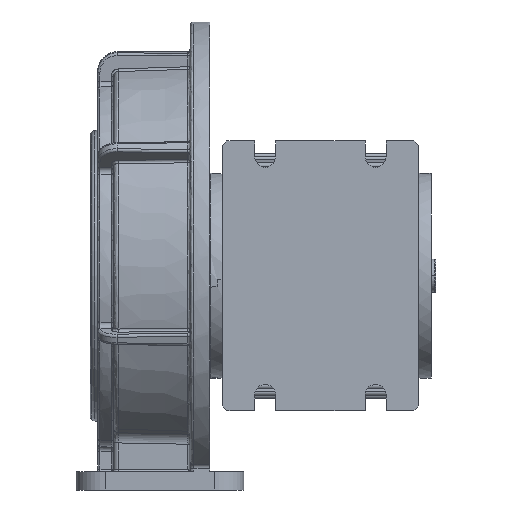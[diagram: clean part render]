
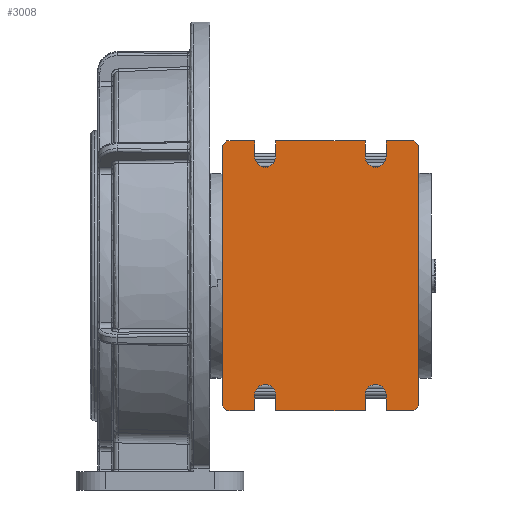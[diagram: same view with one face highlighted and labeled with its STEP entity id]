
A CAD part, left-side view. The second image highlights one B-rep face of the part: STEP entity #3008.
In plain terms, the highlighted planar face has unit normal (-1, 0, 0) as drawn and (0, -1, 0) by its records, which use the part's own axes.
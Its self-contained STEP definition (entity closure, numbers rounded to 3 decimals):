
#212=DIRECTION('',(0.,0.,1.));
#213=VECTOR('',#212,106.);
#214=CARTESIAN_POINT('',(72.7,-42.515,-53.));
#215=LINE('',#214,#213);
#597=DIRECTION('',(0.707,0.,-0.707));
#598=VECTOR('',#597,2.828);
#599=CARTESIAN_POINT('',(-7.5,-42.515,-53.));
#600=LINE('',#599,#598);
#601=DIRECTION('',(0.,0.,1.));
#602=VECTOR('',#601,106.);
#603=CARTESIAN_POINT('',(-7.5,-42.515,-53.));
#604=LINE('',#603,#602);
#605=DIRECTION('',(-0.707,0.,-0.707));
#606=VECTOR('',#605,2.828);
#607=CARTESIAN_POINT('',(-5.5,-42.515,55.));
#608=LINE('',#607,#606);
#609=DIRECTION('',(0.,0.,-1.));
#610=VECTOR('',#609,6.5);
#611=CARTESIAN_POINT('',(5.85,-42.515,55.));
#612=LINE('',#611,#610);
#613=DIRECTION('',(0.,0.,-1.));
#614=VECTOR('',#613,6.5);
#615=CARTESIAN_POINT('',(14.35,-42.515,55.));
#616=LINE('',#615,#614);
#617=DIRECTION('',(0.,0.,-1.));
#618=VECTOR('',#617,6.5);
#619=CARTESIAN_POINT('',(50.85,-42.515,55.));
#620=LINE('',#619,#618);
#621=DIRECTION('',(0.,0.,-1.));
#622=VECTOR('',#621,6.5);
#623=CARTESIAN_POINT('',(59.35,-42.515,55.));
#624=LINE('',#623,#622);
#625=DIRECTION('',(-0.707,0.,0.707));
#626=VECTOR('',#625,2.828);
#627=CARTESIAN_POINT('',(72.7,-42.515,53.));
#628=LINE('',#627,#626);
#629=DIRECTION('',(0.707,0.,0.707));
#630=VECTOR('',#629,2.828);
#631=CARTESIAN_POINT('',(70.7,-42.515,-55.));
#632=LINE('',#631,#630);
#633=DIRECTION('',(1.,0.,0.));
#634=VECTOR('',#633,11.35);
#635=CARTESIAN_POINT('',(59.35,-42.515,-55.));
#636=LINE('',#635,#634);
#637=DIRECTION('',(0.,0.,1.));
#638=VECTOR('',#637,6.5);
#639=CARTESIAN_POINT('',(59.35,-42.515,-55.));
#640=LINE('',#639,#638);
#641=CARTESIAN_POINT('',(55.1,-42.515,-48.5));
#642=DIRECTION('',(0.,-1.,0.));
#643=DIRECTION('',(1.,0.,0.));
#644=AXIS2_PLACEMENT_3D('',#641,#642,#643);
#646=DIRECTION('',(0.,0.,1.));
#647=VECTOR('',#646,6.5);
#648=CARTESIAN_POINT('',(50.85,-42.515,-55.));
#649=LINE('',#648,#647);
#650=DIRECTION('',(1.,0.,0.));
#651=VECTOR('',#650,36.5);
#652=CARTESIAN_POINT('',(14.35,-42.515,-55.));
#653=LINE('',#652,#651);
#654=DIRECTION('',(0.,0.,1.));
#655=VECTOR('',#654,6.5);
#656=CARTESIAN_POINT('',(14.35,-42.515,-55.));
#657=LINE('',#656,#655);
#658=CARTESIAN_POINT('',(10.1,-42.515,-48.5));
#659=DIRECTION('',(0.,-1.,0.));
#660=DIRECTION('',(1.,0.,0.));
#661=AXIS2_PLACEMENT_3D('',#658,#659,#660);
#663=DIRECTION('',(0.,0.,1.));
#664=VECTOR('',#663,6.5);
#665=CARTESIAN_POINT('',(5.85,-42.515,-55.));
#666=LINE('',#665,#664);
#667=DIRECTION('',(1.,0.,0.));
#668=VECTOR('',#667,11.35);
#669=CARTESIAN_POINT('',(-5.5,-42.515,-55.));
#670=LINE('',#669,#668);
#1662=DIRECTION('',(1.,0.,0.));
#1663=VECTOR('',#1662,36.5);
#1664=CARTESIAN_POINT('',(14.35,-42.515,55.));
#1665=LINE('',#1664,#1663);
#1674=DIRECTION('',(1.,0.,0.));
#1675=VECTOR('',#1674,11.35);
#1676=CARTESIAN_POINT('',(-5.5,-42.515,55.));
#1677=LINE('',#1676,#1675);
#1682=DIRECTION('',(1.,0.,0.));
#1683=VECTOR('',#1682,11.35);
#1684=CARTESIAN_POINT('',(59.35,-42.515,55.));
#1685=LINE('',#1684,#1683);
#1690=CARTESIAN_POINT('',(10.1,-42.515,48.5));
#1691=DIRECTION('',(0.,1.,0.));
#1692=DIRECTION('',(1.,0.,0.));
#1693=AXIS2_PLACEMENT_3D('',#1690,#1691,#1692);
#1708=CARTESIAN_POINT('',(55.1,-42.515,48.5));
#1709=DIRECTION('',(0.,1.,0.));
#1710=DIRECTION('',(1.,0.,0.));
#1711=AXIS2_PLACEMENT_3D('',#1708,#1709,#1710);
#2383=CARTESIAN_POINT('',(5.85,-42.515,55.));
#2384=CARTESIAN_POINT('',(5.85,-42.515,48.5));
#2385=VERTEX_POINT('',#2383);
#2386=VERTEX_POINT('',#2384);
#2387=CARTESIAN_POINT('',(14.35,-42.515,55.));
#2388=CARTESIAN_POINT('',(14.35,-42.515,48.5));
#2389=VERTEX_POINT('',#2387);
#2390=VERTEX_POINT('',#2388);
#2391=CARTESIAN_POINT('',(50.85,-42.515,55.));
#2392=CARTESIAN_POINT('',(50.85,-42.515,48.5));
#2393=VERTEX_POINT('',#2391);
#2394=VERTEX_POINT('',#2392);
#2395=CARTESIAN_POINT('',(59.35,-42.515,55.));
#2396=CARTESIAN_POINT('',(59.35,-42.515,48.5));
#2397=VERTEX_POINT('',#2395);
#2398=VERTEX_POINT('',#2396);
#2415=CARTESIAN_POINT('',(14.35,-42.515,-48.5));
#2416=CARTESIAN_POINT('',(5.85,-42.515,-48.5));
#2417=VERTEX_POINT('',#2415);
#2418=VERTEX_POINT('',#2416);
#2419=CARTESIAN_POINT('',(59.35,-42.515,-48.5));
#2420=CARTESIAN_POINT('',(50.85,-42.515,-48.5));
#2421=VERTEX_POINT('',#2419);
#2422=VERTEX_POINT('',#2420);
#2423=CARTESIAN_POINT('',(5.85,-42.515,-55.));
#2424=VERTEX_POINT('',#2423);
#2425=CARTESIAN_POINT('',(14.35,-42.515,-55.));
#2426=VERTEX_POINT('',#2425);
#2427=CARTESIAN_POINT('',(50.85,-42.515,-55.));
#2428=VERTEX_POINT('',#2427);
#2429=CARTESIAN_POINT('',(59.35,-42.515,-55.));
#2430=VERTEX_POINT('',#2429);
#2447=CARTESIAN_POINT('',(-7.5,-42.515,-53.));
#2448=CARTESIAN_POINT('',(-5.5,-42.515,-55.));
#2449=VERTEX_POINT('',#2447);
#2450=VERTEX_POINT('',#2448);
#2459=CARTESIAN_POINT('',(-5.5,-42.515,55.));
#2460=VERTEX_POINT('',#2459);
#2461=CARTESIAN_POINT('',(-7.5,-42.515,53.));
#2462=VERTEX_POINT('',#2461);
#2467=CARTESIAN_POINT('',(70.7,-42.515,-55.));
#2468=VERTEX_POINT('',#2467);
#2469=CARTESIAN_POINT('',(72.7,-42.515,-53.));
#2470=VERTEX_POINT('',#2469);
#2471=CARTESIAN_POINT('',(72.7,-42.515,53.));
#2472=CARTESIAN_POINT('',(70.7,-42.515,55.));
#2473=VERTEX_POINT('',#2471);
#2474=VERTEX_POINT('',#2472);
#2956=CARTESIAN_POINT('',(76.,-42.515,46.276));
#2957=DIRECTION('',(0.,-1.,0.));
#2958=DIRECTION('',(0.,0.,-1.));
#2959=AXIS2_PLACEMENT_3D('',#2956,#2957,#2958);
#2960=PLANE('',#2959);
#2961=ORIENTED_EDGE('',*,*,#2946,.F.);
#2963=ORIENTED_EDGE('',*,*,#2962,.T.);
#2965=ORIENTED_EDGE('',*,*,#2964,.F.);
#2967=ORIENTED_EDGE('',*,*,#2966,.T.);
#2969=ORIENTED_EDGE('',*,*,#2968,.T.);
#2971=ORIENTED_EDGE('',*,*,#2970,.F.);
#2973=ORIENTED_EDGE('',*,*,#2972,.F.);
#2975=ORIENTED_EDGE('',*,*,#2974,.T.);
#2977=ORIENTED_EDGE('',*,*,#2976,.T.);
#2979=ORIENTED_EDGE('',*,*,#2978,.F.);
#2981=ORIENTED_EDGE('',*,*,#2980,.F.);
#2983=ORIENTED_EDGE('',*,*,#2982,.T.);
#2985=ORIENTED_EDGE('',*,*,#2984,.F.);
#2986=ORIENTED_EDGE('',*,*,#2670,.F.);
#2987=ORIENTED_EDGE('',*,*,#2901,.F.);
#2989=ORIENTED_EDGE('',*,*,#2988,.F.);
#2991=ORIENTED_EDGE('',*,*,#2990,.T.);
#2993=ORIENTED_EDGE('',*,*,#2992,.T.);
#2995=ORIENTED_EDGE('',*,*,#2994,.F.);
#2997=ORIENTED_EDGE('',*,*,#2996,.F.);
#2999=ORIENTED_EDGE('',*,*,#2998,.T.);
#3001=ORIENTED_EDGE('',*,*,#3000,.T.);
#3003=ORIENTED_EDGE('',*,*,#3002,.F.);
#3005=ORIENTED_EDGE('',*,*,#3004,.F.);
#3006=EDGE_LOOP('',(#2961,#2963,#2965,#2967,#2969,#2971,#2973,#2975,#2977,#2979,
#2981,#2983,#2985,#2986,#2987,#2989,#2991,#2993,#2995,#2997,#2999,#3001,#3003,
#3005));
#3007=FACE_OUTER_BOUND('',#3006,.F.);
#3008=ADVANCED_FACE('',(#3007),#2960,.T.);
#645=CIRCLE('',#644,4.25);
#662=CIRCLE('',#661,4.25);
#1694=CIRCLE('',#1693,4.25);
#1712=CIRCLE('',#1711,4.25);
#2670=EDGE_CURVE('',#2470,#2473,#215,.T.);
#2901=EDGE_CURVE('',#2468,#2470,#632,.T.);
#2946=EDGE_CURVE('',#2449,#2450,#600,.T.);
#2962=EDGE_CURVE('',#2449,#2462,#604,.T.);
#2964=EDGE_CURVE('',#2460,#2462,#608,.T.);
#2966=EDGE_CURVE('',#2460,#2385,#1677,.T.);
#2968=EDGE_CURVE('',#2385,#2386,#612,.T.);
#2970=EDGE_CURVE('',#2390,#2386,#1694,.T.);
#2972=EDGE_CURVE('',#2389,#2390,#616,.T.);
#2974=EDGE_CURVE('',#2389,#2393,#1665,.T.);
#2976=EDGE_CURVE('',#2393,#2394,#620,.T.);
#2978=EDGE_CURVE('',#2398,#2394,#1712,.T.);
#2980=EDGE_CURVE('',#2397,#2398,#624,.T.);
#2982=EDGE_CURVE('',#2397,#2474,#1685,.T.);
#2984=EDGE_CURVE('',#2473,#2474,#628,.T.);
#2988=EDGE_CURVE('',#2430,#2468,#636,.T.);
#2990=EDGE_CURVE('',#2430,#2421,#640,.T.);
#2992=EDGE_CURVE('',#2421,#2422,#645,.T.);
#2994=EDGE_CURVE('',#2428,#2422,#649,.T.);
#2996=EDGE_CURVE('',#2426,#2428,#653,.T.);
#2998=EDGE_CURVE('',#2426,#2417,#657,.T.);
#3000=EDGE_CURVE('',#2417,#2418,#662,.T.);
#3002=EDGE_CURVE('',#2424,#2418,#666,.T.);
#3004=EDGE_CURVE('',#2450,#2424,#670,.T.);
